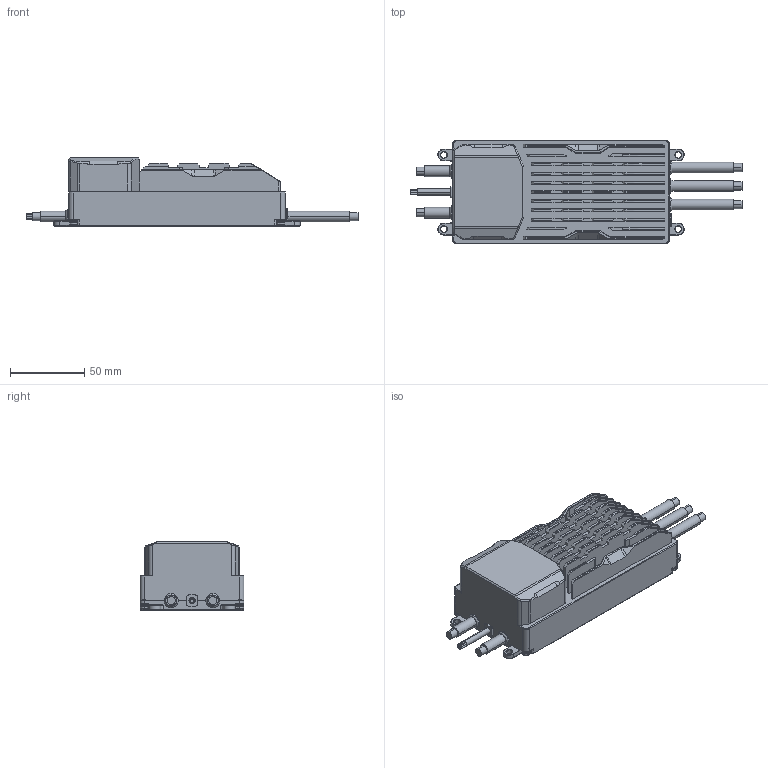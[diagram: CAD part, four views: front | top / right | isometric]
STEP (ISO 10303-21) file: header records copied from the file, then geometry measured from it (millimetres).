
FILE_DESCRIPTION((''),'2;1');
FILE_NAME('MK1','2025-03-25T14:36:45',('221126'),(''),'CREO PARAMETRIC BY PTC INC, 2021284','CREO PARAMETRIC BY PTC INC, 2021284','');
FILE_SCHEMA(('AP242_MANAGED_MODEL_BASED_3D_ENGINEERING_MIM_LF { 1 0 10303 442 1 1 4 }'));
Products named in the file (1): MK1
Bounding box: 223.8 x 70 x 46 mm (x, y, z)
Volume: 127812.4 mm3; surface area: 122437.3 mm2
Topology: 2 solids, 3 shells, 3354 faces, 8726 edges, 5614 vertices
Faces by surface type: plane 2356, cylinder 606, cone 286, bspline 76, torus 24, sphere 6
Entity records: 146206 total; most frequent: CARTESIAN_POINT 37023, ORIENTED_EDGE 17452, DIRECTION 16106, PRESENTATION_STYLE_ASSIGNMENT 8810, STYLED_ITEM 8728, CURVE_STYLE 8726, EDGE_CURVE 8726, VECTOR 6632
